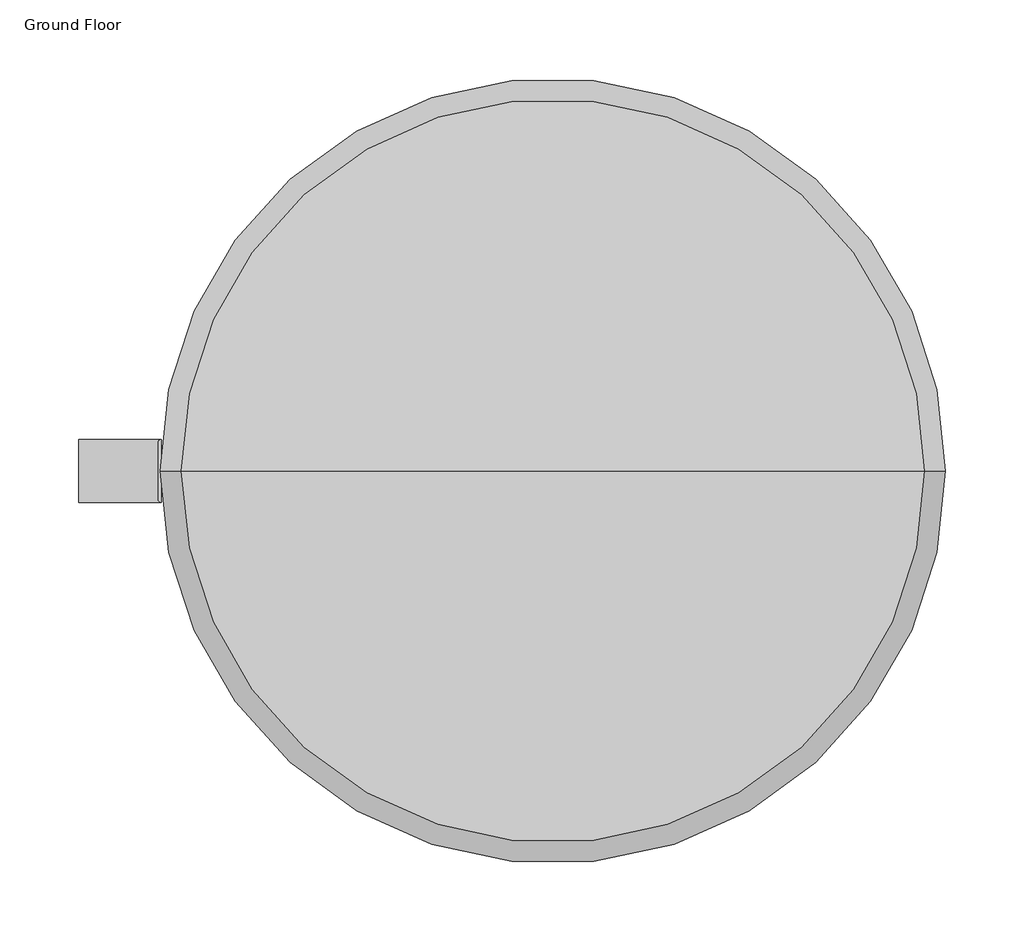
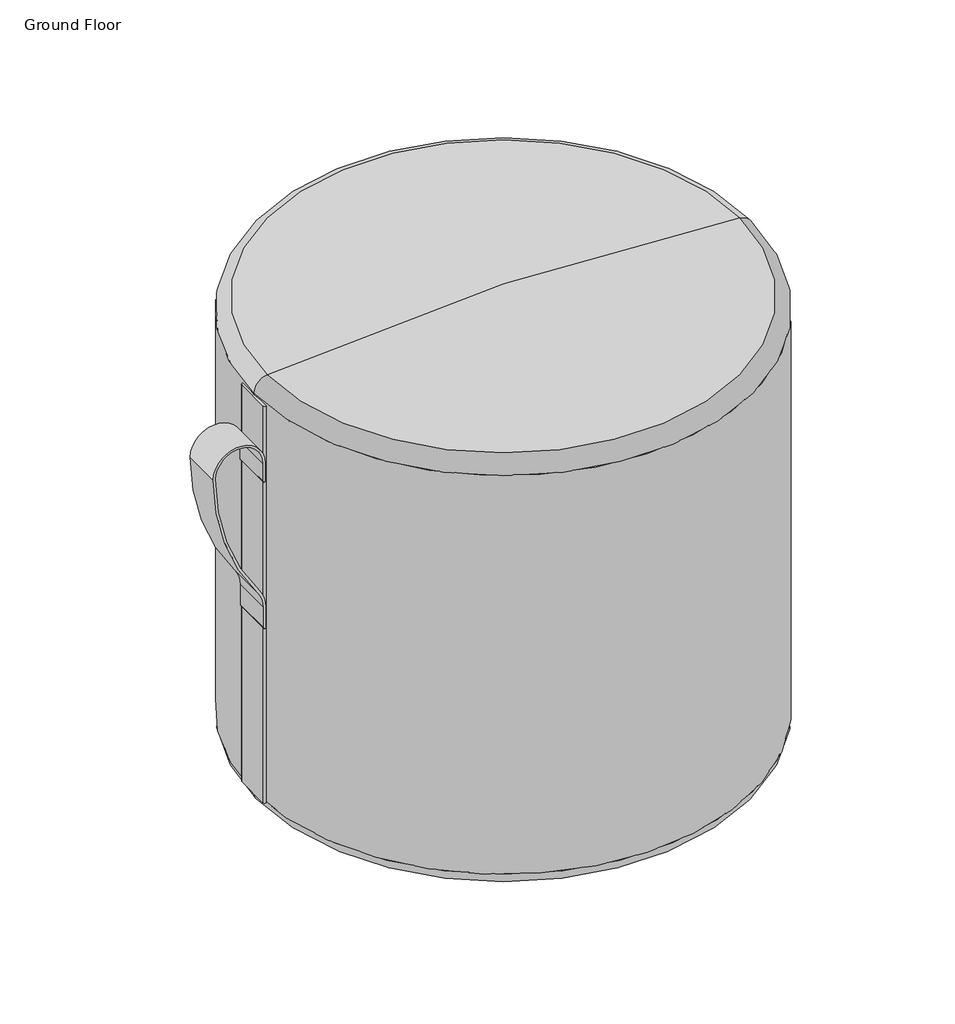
# One storey: 1 furniture element.
"""IFC4 building model written with IfcOpenShell, lengths in millimetres."""

from ifc_helpers import new_model, si_unit, origin, place, context, project, spatial, transform, mapped, element, save
from components import diameter_500mm_h450mm_fac66995

model = new_model("IFC4")

# Units and contexts
model_context = context("Model", 3, world=origin())
ifc_project = project(units=[si_unit("LENGTHUNIT", "METRE", prefix="MILLI")], contexts=[model_context])

# Site, building, storey
site = spatial("IfcSite", under=ifc_project)
building = spatial("IfcBuilding", under=site)
storey = spatial("IfcBuildingStorey", under=building, Name="Ground Floor", Elevation=0.0)

# Furniture
placement = place(None, origin())
diameter_500mm_h450mm_shape = diameter_500mm_h450mm_fac66995(model_context)
element("IfcFurniture", 1, ObjectType="Funhouse Teacup (500x450) : Diameter 500mm H450mm", at=placement, inside=storey, context=model_context, shape_type="MappedRepresentation", body=[
    mapped(diameter_500mm_h450mm_shape, transform((0.0, 0.0, 0.0), x_axis=(1.0, 0.0, 0.0), y_axis=(0.0, 1.0, 0.0), z_axis=(0.0, 0.0, 1.0))),
])

save(model, "model.ifc")
